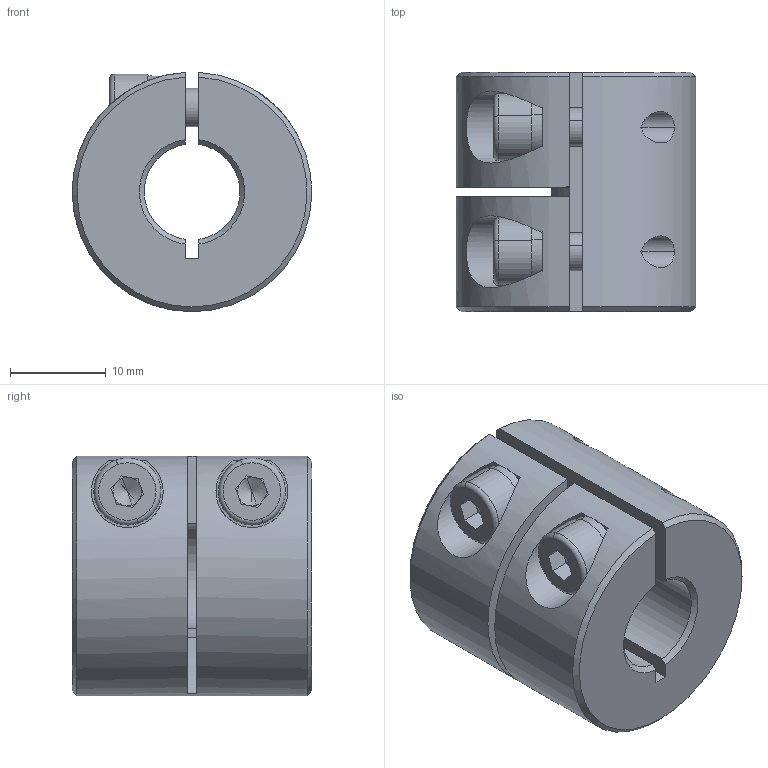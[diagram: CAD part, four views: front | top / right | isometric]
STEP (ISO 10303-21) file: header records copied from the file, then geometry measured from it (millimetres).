
FILE_DESCRIPTION (( 'STEP AP203' ), '1' );
FILE_NAME ('LL-B-D25L25-10-11.STEP', '2021-11-05T06:39:26', ( '' ), ( '' ), 'SwSTEP 2.0', 'SolidWorks 2018', '' );
FILE_SCHEMA (( 'CONFIG_CONTROL_DESIGN' ));
Length unit declared in the file: millimetre
Products named in the file (1): LL-B-D25L25-10-11
Bounding box: 24.99 x 25 x 24.98 mm (x, y, z)
Volume: 9420 mm3; surface area: 4916.5 mm2
Topology: 1 solids, 1 shells, 104 faces, 270 edges, 170 vertices
Faces by surface type: plane 52, cylinder 37, cone 11, torus 4
Entity records: 3471 total; most frequent: CARTESIAN_POINT 815, DIRECTION 560, ORIENTED_EDGE 532, EDGE_CURVE 266, AXIS2_PLACEMENT_3D 215, VERTEX_POINT 170, LINE 130, VECTOR 130
